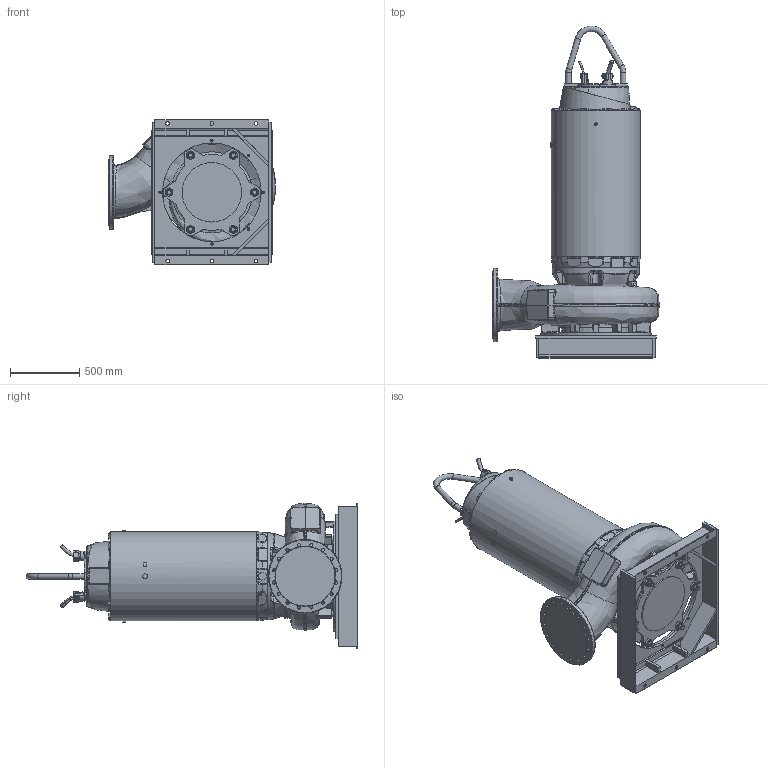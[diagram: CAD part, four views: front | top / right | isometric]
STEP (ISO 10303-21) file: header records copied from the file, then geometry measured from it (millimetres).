
FILE_DESCRIPTION (( 'STEP AP203' ), '1' );
FILE_NAME ('PE6_XFP356M-CB3_DRY_A.STEP', '2022-04-01T08:37:11', ( '' ), ( '' ), 'SwSTEP 2.0', 'SolidWorks 2017', '' );
FILE_SCHEMA (( 'CONFIG_CONTROL_DESIGN' ));
Products named in the file (2): PE6_XFP356M-CB3_DRY_A
Bounding box: 1212.14 x 2403.14 x 1054.49 mm (x, y, z)
Volume: 687889441.6 mm3; surface area: 10269070.4 mm2
Topology: 17 solids, 55 shells, 3242 faces, 7868 edges, 4736 vertices
Faces by surface type: plane 1026, bspline 827, cylinder 595, cone 412, torus 263, sphere 119
Full cylindrical faces by diameter (mm): 5 x2, 6 x10, 7 x4, 7.5 x2, 10 x12, 11 x6, 12 x2, 14 x8, 16 x14, 17.5 x18, 18 x12, 19 x5, 19.05 x1, 20 x6, 22 x8, 23 x16, 24 x1, 25 x1, 26 x6, 31.67 x2, 33 x1, 36 x17, 40 x8, 48 x16, 250 x1, 430 x2, 492 x1, 644 x1, 715 x2, 800 x1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
Entity records: 160318 total; most frequent: CARTESIAN_POINT 93830, ORIENTED_EDGE 14510, DIRECTION 12145, EDGE_CURVE 7255, AXIS2_PLACEMENT_3D 4936, VERTEX_POINT 4545, EDGE_LOOP 3820, FACE_OUTER_BOUND 3470
